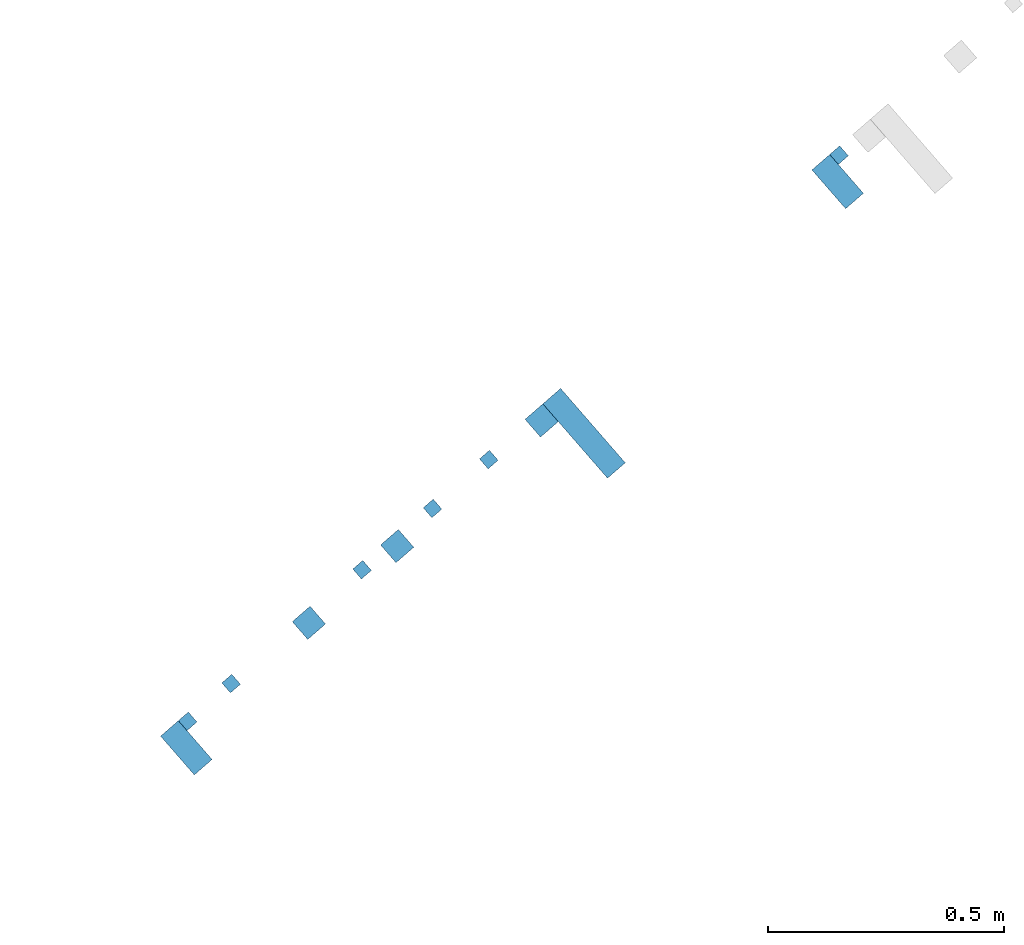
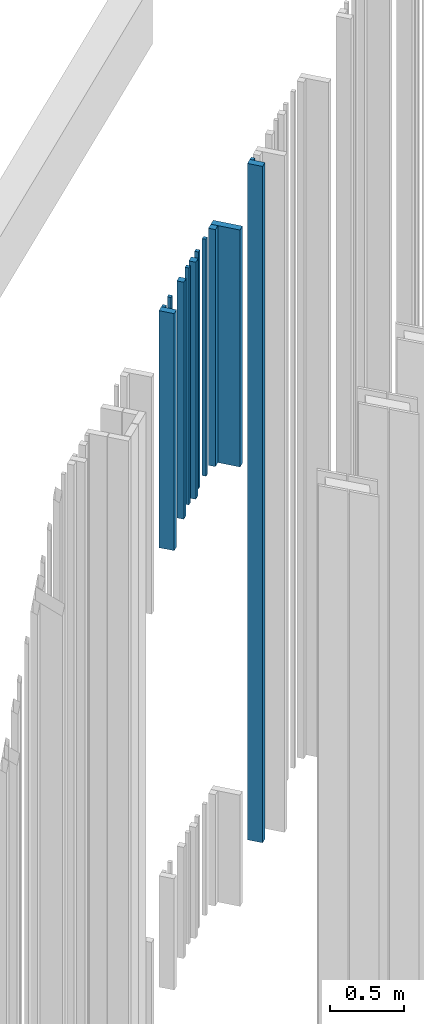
# One storey, part 213 of 390: 12 walls.
"""IFC2X3 building model written with IfcOpenShell, lengths in millimetres."""

from ifc_helpers import new_model, entity, si_unit, converted_unit, derived_unit, money_unit, direction, frame, origin_with_axes, place, context, subcontext, project, spatial, faceted_brep, material, type_object, element, save


model = new_model("IFC2X3")

# Units and contexts
model_context = context("Model", 3, precision=1e-05, world=origin_with_axes(), true_north=direction((0.0, 1.0)))
body_context = subcontext(model_context, "Body", "Model", "MODEL_VIEW")
ifc_project = project(units=[si_unit("LENGTHUNIT", "METRE", prefix="MILLI"), si_unit("AREAUNIT", "SQUARE_METRE"), si_unit("VOLUMEUNIT", "CUBIC_METRE"), converted_unit("PLANEANGLEUNIT", "DEGREE", entity("IfcPlaneAngleMeasure", 0.0174532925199), si_unit("PLANEANGLEUNIT", "RADIAN"), dimensions=[0, 0, 0, 0, 0, 0, 0]), si_unit("SOLIDANGLEUNIT", "STERADIAN"), money_unit("EUR"), converted_unit("TIMEUNIT", "Year", entity("IfcTimeMeasure", 31556926.0), si_unit("TIMEUNIT", "SECOND"), dimensions=[0, 0, 1, 0, 0, 0, 0]), si_unit("MASSUNIT", "GRAM", prefix="KILO"), si_unit("THERMODYNAMICTEMPERATUREUNIT", "DEGREE_CELSIUS"), si_unit("LUMINOUSINTENSITYUNIT", "LUMEN"), si_unit("ENERGYUNIT", "JOULE", prefix="MEGA"), derived_unit("THERMALCONDUCTANCEUNIT", [(si_unit("POWERUNIT", "WATT"), 1), (si_unit("LENGTHUNIT", "METRE"), -1), (si_unit("THERMODYNAMICTEMPERATUREUNIT", "KELVIN"), -1)]), derived_unit("SPECIFICHEATCAPACITYUNIT", [(si_unit("ENERGYUNIT", "JOULE"), 1), (si_unit("MASSUNIT", "GRAM", prefix="KILO"), -1), (si_unit("THERMODYNAMICTEMPERATUREUNIT", "KELVIN"), -1)]), derived_unit("MASSDENSITYUNIT", [(si_unit("MASSUNIT", "GRAM", prefix="KILO"), 1), (si_unit("VOLUMEUNIT", "CUBIC_METRE"), -1)])], contexts=[model_context])

# Site, building, storey
site_placement = place(None, origin_with_axes())
site = spatial("IfcSite", under=ifc_project, at=site_placement, Name="Site", CompositionType="ELEMENT")
building_placement = place(site_placement, origin_with_axes())
building = spatial("IfcBuilding", under=site, at=building_placement, Name="Building", CompositionType="ELEMENT")
storey_placement = place(building_placement, origin_with_axes())
storey = spatial("IfcBuildingStorey", under=building, at=storey_placement, Name="1 korrus", CompositionType="ELEMENT", Elevation=0.0)

# Walls
ifc_material = material(Name="Site specified")
wall_type = type_object("IfcWallType", Name="Puitfassaadi ribistik", PredefinedType="NOTDEFINED")
wall_1_placement = place(storey_placement, frame((152428.892101, 77149.6061603, 7915.0), z_axis=(0.0, 0.0, 1.0), x_axis=(-0.754709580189, -0.65605902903, 0.0)))
element("IfcWall", 1, at=wall_1_placement, inside=storey, type_object=wall_type, material=ifc_material, Name="Site specified", context=body_context, shape_type="Brep", body=[
    faceted_brep([(-14.0, -14.0, 1950.0), (-14.0, -14.0, 0.0), (14.0, -14.0, 0.0), (14.0, -14.0, 1950.0), (-14.0, 14.0, 1950.0), (-14.0, 14.0, 0.0), (14.0, 14.0, 0.0), (14.0, 14.0, 1950.0)], [[[0, 1, 2, 3]], [[4, 5, 1, 0]], [[2, 1, 5, 6]], [[3, 2, 6, 7]], [[4, 0, 3, 7]], [[7, 6, 5, 4]]]),
])
for number, where, z_axis, x_axis, name in (
    (2, (152541.013382, 77232.4965599, 7915.0), (0.0, 0.0, 1.0), (-0.754709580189, -0.65605902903, 0.0), "Site specified"),
    (3, (152234.601292, 76966.1365941, 7915.0), (0.0, 0.0, 1.0), (-0.754709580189, -0.65605902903, 0.0), "Site specified"),
):
    element("IfcWall", number, at=place(storey_placement, frame(where, z_axis=z_axis, x_axis=x_axis)), inside=storey, type_object=wall_type, material=ifc_material, Name=name, context=body_context, shape_type="Brep", body=[
        faceted_brep([(-25.0, -25.0, 1950.0), (-25.0, -25.0, 0.0), (25.0, -25.0, 0.0), (25.0, -25.0, 1950.0), (-25.0, 25.0, 1950.0), (-25.0, 25.0, 0.0), (25.0, 25.0, 0.0), (25.0, 25.0, 1950.0)], [[[0, 1, 2, 3]], [[4, 5, 1, 0]], [[2, 1, 5, 6]], [[3, 2, 6, 7]], [[4, 0, 3, 7]], [[7, 6, 5, 4]]]),
    ])
for number, where, z_axis, x_axis, name in (
    (4, (152309.647987, 77045.9488337, 7915.0), (0.0, 0.0, 1.0), (-0.754709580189, -0.65605902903, 0.0), "Site specified"),
    (5, (151790.407796, 76594.5802217, 7915.0), (0.0, 0.0, 1.0), (-0.754709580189, -0.65605902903, 0.0), "Site specified"),
):
    element("IfcWall", number, at=place(storey_placement, frame(where, z_axis=z_axis, x_axis=x_axis)), inside=storey, type_object=wall_type, material=ifc_material, Name=name, context=body_context, shape_type="Brep", body=[
        faceted_brep([(-14.0, -14.0, 1950.0), (-14.0, -14.0, 0.0), (14.0, -14.0, 0.0), (14.0, -14.0, 1950.0), (-14.0, 14.0, 1950.0), (-14.0, 14.0, 0.0), (14.0, 14.0, 0.0), (14.0, 14.0, 1950.0)], [[[0, 1, 2, 3]], [[4, 5, 1, 0]], [[2, 1, 5, 6]], [[3, 2, 6, 7]], [[4, 0, 3, 7]], [[7, 6, 5, 4]]]),
    ])
wall_2_placement = place(storey_placement, frame((151787.544513, 76538.4281815, 7915.0), z_axis=(0.0, 0.0, 1.0), x_axis=(-0.754709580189, -0.65605902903, 0.0)))
element("IfcWall", 6, at=wall_2_placement, inside=storey, type_object=wall_type, material=ifc_material, Name="Site specified", context=body_context, shape_type="Brep", body=[
    faceted_brep([(-25.0, -54.5, 1950.0), (-25.0, -54.5, 0.0), (25.0, -54.5, 0.0), (25.0, -54.5, 1950.0), (-25.0, 54.5, 1950.0), (-25.0, 54.5, 0.0), (25.0, 54.5, 0.0), (25.0, 54.5, 1950.0)], [[[0, 1, 2, 3]], [[4, 5, 1, 0]], [[2, 1, 5, 6]], [[3, 2, 6, 7]], [[4, 0, 3, 7]], [[7, 6, 5, 4]]]),
])
wall_3_placement = place(storey_placement, frame((152630.905554, 77205.3000997, 7915.0), z_axis=(0.0, 0.0, 1.0), x_axis=(-0.754709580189, -0.65605902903, 0.0)))
element("IfcWall", 7, at=wall_3_placement, inside=storey, type_object=wall_type, material=ifc_material, Name="Site specified", context=body_context, shape_type="Brep", body=[
    faceted_brep([(-25.0, -104.5, 1950.0), (-25.0, -104.5, 0.0), (25.0, -104.5, 0.0), (25.0, -104.5, 1950.0), (-25.0, 104.5, 1950.0), (-25.0, 104.5, 0.0), (25.0, 104.5, 0.0), (25.0, 104.5, 1950.0)], [[[0, 1, 2, 3]], [[4, 5, 1, 0]], [[2, 1, 5, 6]], [[3, 2, 6, 7]], [[4, 0, 3, 7]], [[7, 6, 5, 4]]]),
])
for number, where, z_axis, x_axis, name in (
    (8, (152160.21549, 76916.0491459, 7915.0), (0.0, 0.0, 1.0), (-0.754709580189, -0.65605902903, 0.0), "Site specified"),
    (9, (151882.482365, 76674.6194232, 7915.0), (0.0, 0.0, 1.0), (-0.754709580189, -0.65605902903, 0.0), "Site specified"),
):
    element("IfcWall", number, at=place(storey_placement, frame(where, z_axis=z_axis, x_axis=x_axis)), inside=storey, type_object=wall_type, material=ifc_material, Name=name, context=body_context, shape_type="Brep", body=[
        faceted_brep([(-14.0, -14.0, 1950.0), (-14.0, -14.0, 0.0), (14.0, -14.0, 0.0), (14.0, -14.0, 1950.0), (-14.0, 14.0, 1950.0), (-14.0, 14.0, 0.0), (14.0, 14.0, 0.0), (14.0, 14.0, 1950.0)], [[[0, 1, 2, 3]], [[4, 5, 1, 0]], [[2, 1, 5, 6]], [[3, 2, 6, 7]], [[4, 0, 3, 7]], [[7, 6, 5, 4]]]),
    ])
wall_4_placement = place(storey_placement, frame((152047.433317, 76803.4339549, 7915.0), z_axis=(0.0, 0.0, 1.0), x_axis=(-0.754709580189, -0.65605902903, 0.0)))
element("IfcWall", 10, at=wall_4_placement, inside=storey, type_object=wall_type, material=ifc_material, Name="Site specified", context=body_context, shape_type="Brep", body=[
    faceted_brep([(-25.0, -25.0, 1950.0), (-25.0, -25.0, 0.0), (25.0, -25.0, 0.0), (25.0, -25.0, 1950.0), (-25.0, 25.0, 1950.0), (-25.0, 25.0, 0.0), (25.0, 25.0, 0.0), (25.0, 25.0, 1950.0)], [[[0, 1, 2, 3]], [[4, 5, 1, 0]], [[2, 1, 5, 6]], [[3, 2, 6, 7]], [[4, 0, 3, 7]], [[7, 6, 5, 4]]]),
])
wall_5_placement = place(storey_placement, frame((153168.661458, 77739.0148251, 4300.0), z_axis=(0.0, 0.0, 1.0), x_axis=(-0.754709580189, -0.65605902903, 0.0)))
element("IfcWall", 11, at=wall_5_placement, inside=storey, type_object=wall_type, material=ifc_material, Name="Site specified", context=body_context, shape_type="Brep", body=[
    faceted_brep([(-25.0, -54.5, 5565.0), (-25.0, -54.5, 0.0), (25.0, -54.5, 0.0), (25.0, -54.5, 5565.0), (-25.0, 54.5, 5565.0), (-25.0, 54.5, 0.0), (25.0, 54.5, 0.0), (25.0, 54.5, 5565.0)], [[[0, 1, 2, 3]], [[4, 5, 1, 0]], [[2, 1, 5, 6]], [[3, 2, 6, 7]], [[4, 0, 3, 7]], [[7, 6, 5, 4]]]),
])
wall_6_placement = place(storey_placement, frame((153171.524741, 77795.1668653, 4300.0), z_axis=(0.0, 0.0, 1.0), x_axis=(-0.754709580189, -0.65605902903, 0.0)))
element("IfcWall", 12, at=wall_6_placement, inside=storey, type_object=wall_type, material=ifc_material, Name="Site specified", context=body_context, shape_type="Brep", body=[
    faceted_brep([(-14.0, -14.0, 5565.0), (-14.0, -14.0, 0.0), (14.0, -14.0, 0.0), (14.0, -14.0, 5565.0), (-14.0, 14.0, 5565.0), (-14.0, 14.0, 0.0), (14.0, 14.0, 0.0), (14.0, 14.0, 5565.0)], [[[0, 1, 2, 3]], [[4, 5, 1, 0]], [[2, 1, 5, 6]], [[3, 2, 6, 7]], [[4, 0, 3, 7]], [[7, 6, 5, 4]]]),
])

save(model, "model.ifc")
